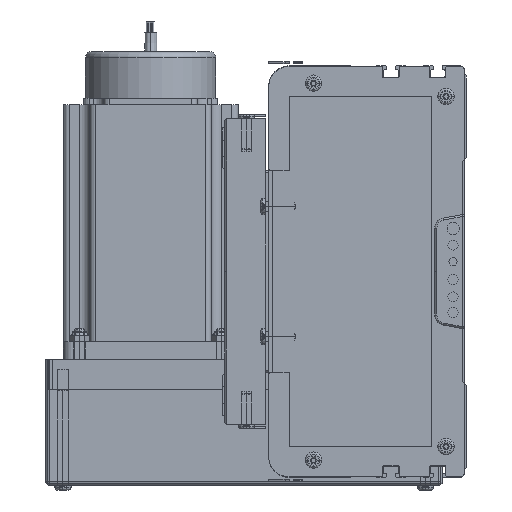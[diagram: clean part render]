
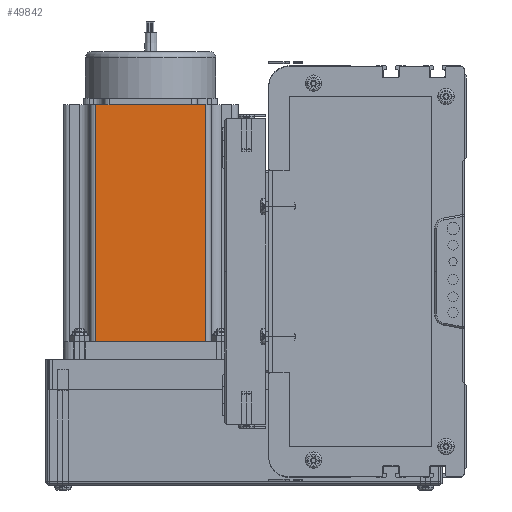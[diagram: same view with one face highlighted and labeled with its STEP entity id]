
A CAD part, left-side view. The second image highlights one B-rep face of the part: STEP entity #49842.
In plain terms, the highlighted planar face has unit normal (-1, 0, 0) as drawn and (0, -1, 0) by its records, which use the part's own axes.
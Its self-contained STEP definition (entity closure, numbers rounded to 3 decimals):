
#49543 = ORIENTED_EDGE ( 'NONE', *, *, #50000, .F. ) ;
#49544 = EDGE_CURVE ( 'NONE', #49844, #50625, #50957, .T. ) ;
#49842 = ADVANCED_FACE ( 'NONE', ( #53031 ), #53025, .F. ) ;
#49844 = VERTEX_POINT ( 'NONE', #52913 ) ;
#49857 = ORIENTED_EDGE ( 'NONE', *, *, #49544, .T. ) ;
#49988 = VERTEX_POINT ( 'NONE', #53188 ) ;
#50000 = EDGE_CURVE ( 'NONE', #49844, #49988, #53114, .T. ) ;
#50009 = EDGE_CURVE ( 'NONE', #50188, #49988, #53275, .T. ) ;
#50104 = EDGE_CURVE ( 'NONE', #50625, #50188, #55563, .T. ) ;
#50188 = VERTEX_POINT ( 'NONE', #55842 ) ;
#50222 = ORIENTED_EDGE ( 'NONE', *, *, #50009, .T. ) ;
#50227 = ORIENTED_EDGE ( 'NONE', *, *, #50104, .T. ) ;
#50395 = EDGE_LOOP ( 'NONE', ( #50227, #50222, #49543, #49857 ) ) ;
#50625 = VERTEX_POINT ( 'NONE', #58709 ) ;
#50956 = CARTESIAN_POINT ( 'NONE',  ( 16.16, 0., 116.5 ) ) ;
#50957 = LINE ( 'NONE', #50956, #50985 ) ;
#50984 = DIRECTION ( 'NONE',  ( 0., 0., -1. ) ) ;
#50985 = VECTOR ( 'NONE', #50984, 1000. ) ;
#52913 = CARTESIAN_POINT ( 'NONE',  ( 16.16, 0., 116.5 ) ) ;
#52915 = DIRECTION ( 'NONE',  ( 0., 1., 0. ) ) ;
#52997 = DIRECTION ( 'NONE',  ( 0., 0., 1. ) ) ;
#53015 = AXIS2_PLACEMENT_3D ( 'NONE', #53041, #52915, #52997 ) ;
#53025 = PLANE ( 'NONE',  #53015 ) ;
#53031 = FACE_OUTER_BOUND ( 'NONE', #50395, .T. ) ;
#53041 = CARTESIAN_POINT ( 'NONE',  ( 0., 0., 116.5 ) ) ;
#53114 = LINE ( 'NONE', #53302, #53301 ) ;
#53188 = CARTESIAN_POINT ( 'NONE',  ( 69.74, 0., 116.5 ) ) ;
#53250 = DIRECTION ( 'NONE',  ( 0., 0., 1. ) ) ;
#53252 = VECTOR ( 'NONE', #53250, 1000. ) ;
#53255 = CARTESIAN_POINT ( 'NONE',  ( 69.74, 0., 116.5 ) ) ;
#53275 = LINE ( 'NONE', #53255, #53252 ) ;
#53298 = DIRECTION ( 'NONE',  ( 1., 0., 0. ) ) ;
#53301 = VECTOR ( 'NONE', #53298, 1000. ) ;
#53302 = CARTESIAN_POINT ( 'NONE',  ( 0., 0., 116.5 ) ) ;
#55563 = LINE ( 'NONE', #55664, #55663 ) ;
#55662 = DIRECTION ( 'NONE',  ( 1., 0., 0. ) ) ;
#55663 = VECTOR ( 'NONE', #55662, 1000. ) ;
#55664 = CARTESIAN_POINT ( 'NONE',  ( 0., 0., 0. ) ) ;
#55842 = CARTESIAN_POINT ( 'NONE',  ( 69.74, 0., 0. ) ) ;
#58709 = CARTESIAN_POINT ( 'NONE',  ( 16.16, 0., 0. ) ) ;
